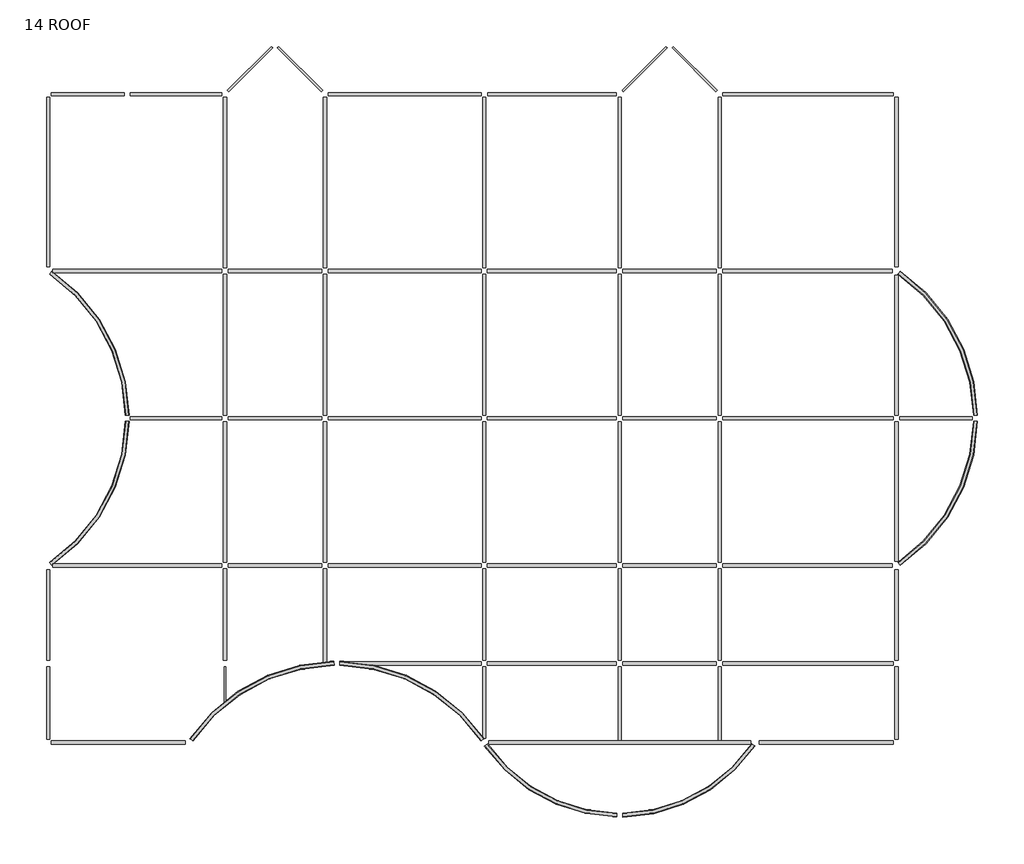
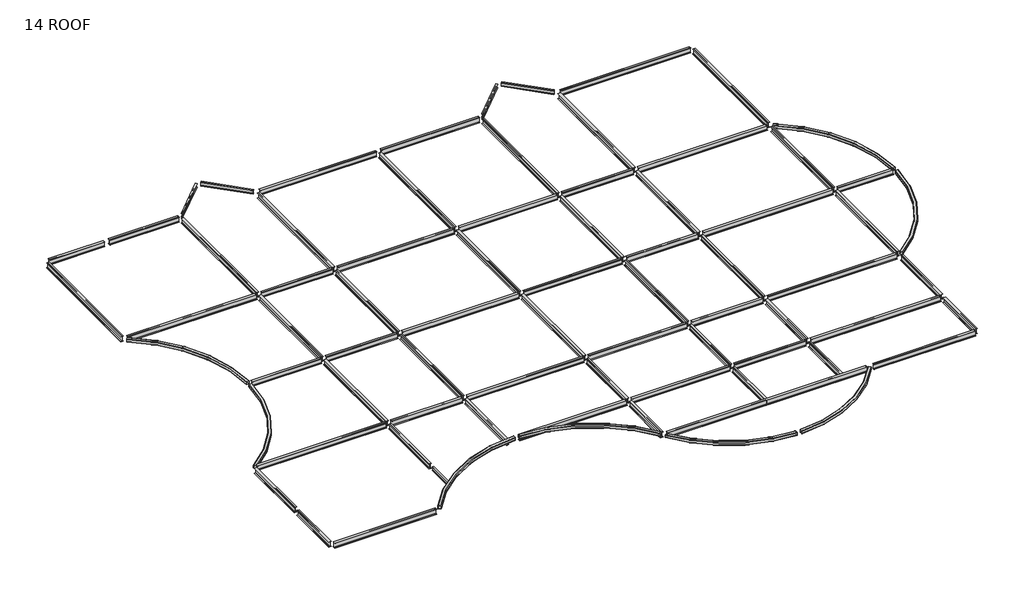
# One storey: 75 beams.
"""IFC4 building model written with IfcOpenShell, lengths in millimetres."""

from ifc_helpers import new_model, si_unit, origin, place, context, project, spatial, transform, mapped, element, save
from components import m_hss_square_hss203_2x203_2x9_5_28e91a4e, m_hss_square_hss203_2x203_2x9_5_f31329aa, m_hss_square_hss203_2x203_2x9_5_63507dff, m_hss_square_hss203_2x203_2x9_5_914ff4eb, m_hss_square_hss203_2x203_2x9_5_0e3d8e6e, m_hss_square_hss203_2x203_2x9_5_16dc1c03, m_hss_square_hss203_2x203_2x9_5_18346204, m_hss_square_hss203_2x203_2x9_5_d5f1e8c4, ub_universal_beams_ub254x102x28_7812688d, ub_universal_beams_ub254x102x28_4a38c177, ub_universal_beams_ub254x102x28_9e251ecf, ub_universal_beams_ub356x171x51_c708c058, ub_universal_beams_ub356x171x51_ef72dcdd, ub_universal_beams_ub356x171x51_10b3c54f, ub_universal_beams_ub356x171x51_4c9fd821, ub_universal_beams_ub356x171x51_d1a87c3c, ub_universal_beams_ub356x171x51_fa75724b, ub_universal_beams_ub356x171x51_68db896e, ub_universal_beams_ub356x171x51_c634c4a6, ub_universal_beams_ub356x171x51_995f1560, ub_universal_beams_ub356x171x51_7f80702c, ub_universal_beams_ub356x171x51_dfc36663, ub_universal_beams_ub356x171x51_405a853e, ub_universal_beams_ub356x171x51_e47b7055, ub_universal_beams_ub356x171x51_e97f8d2e, ub_universal_beams_ub356x171x51_11d6b780, ub_universal_beams_ub356x171x51_76b2d20b, ub_universal_beams_ub356x171x51_145ecd4b, ub_universal_beams_ub356x171x51_c7dff8d2, ub_universal_beams_ub356x171x51_8a345439, ub_universal_beams_ub356x171x51_6da510e9, ub_universal_beams_ub356x171x51_a38b99de, ub_universal_beams_ub356x171x51_d8f4cdde, ub_universal_beams_ub356x171x51_8094f821, ub_universal_beams_ub356x171x51_475301e6, ub_universal_beams_ub356x171x51_c03c70fb, ub_universal_beams_ub356x171x51_e661f2e4, ub_universal_beams_ub356x171x51_3ee91673, ub_universal_beams_ub356x171x51_a871b283, ub_universal_beams_ub356x171x51_d6a9458c, ub_universal_beams_ub356x171x51_579ee26b

model = new_model("IFC4")

# Units and contexts
model_context = context("Model", 3, world=origin())
ifc_project = project(units=[si_unit("LENGTHUNIT", "METRE", prefix="MILLI")], contexts=[model_context])

# Site, building, storey
site = spatial("IfcSite", under=ifc_project)
building = spatial("IfcBuilding", under=site)
storey = spatial("IfcBuildingStorey", under=building, Name="14 ROOF", Elevation=64922.6)

# Beams
placement = place(None, origin())
m_hss_square_hss203_2x203_2x9_5_shape = m_hss_square_hss203_2x203_2x9_5_28e91a4e(model_context)
element("IfcBeam", 1, ObjectType="M_HSS Square : HSS203.2X203.2X9.5", at=placement, inside=storey, context=model_context, shape_type="MappedRepresentation", body=[
    mapped(m_hss_square_hss203_2x203_2x9_5_shape, transform((44027.575, 24539.575, 64757.1), x_axis=(0.8332810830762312, -0.5528495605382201, 0.0), y_axis=(0.5528495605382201, 0.8332810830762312, 0.0), z_axis=(0.0, 0.0, 1.0))),
])
m_hss_square_hss203_2x203_2x9_5_2_shape = m_hss_square_hss203_2x203_2x9_5_f31329aa(model_context)
element("IfcBeam", 2, ObjectType="M_HSS Square : HSS203.2X203.2X9.5", at=placement, inside=storey, context=model_context, shape_type="MappedRepresentation", body=[
    mapped(m_hss_square_hss203_2x203_2x9_5_2_shape, transform((44027.575, 9299.575, 64757.1), x_axis=(0.8332810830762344, 0.5528495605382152, 0.0), y_axis=(-0.5528495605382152, 0.8332810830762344, 0.0), z_axis=(0.0, 0.0, 1.0))),
])
m_hss_square_hss203_2x203_2x9_5_3_shape = m_hss_square_hss203_2x203_2x9_5_63507dff(model_context)
element("IfcBeam", 3, ObjectType="M_HSS Square : HSS203.2X203.2X9.5", at=placement, inside=storey, context=model_context, shape_type="MappedRepresentation", body=[
    mapped(m_hss_square_hss203_2x203_2x9_5_3_shape, transform((36716.575, 155.575, 64821.1), x_axis=(-0.5530174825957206, -0.8331696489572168, 0.0), y_axis=(0.8331696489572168, -0.5530174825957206, 0.0), z_axis=(0.0, 0.0, 1.0))),
])
m_hss_square_hss203_2x203_2x9_5_4_shape = m_hss_square_hss203_2x203_2x9_5_914ff4eb(model_context)
element("IfcBeam", 4, ObjectType="M_HSS Square : HSS203.2X203.2X9.5", at=placement, inside=storey, context=model_context, shape_type="MappedRepresentation", body=[
    mapped(m_hss_square_hss203_2x203_2x9_5_4_shape, transform((22710.575, 155.575, 64821.1), x_axis=(-0.552849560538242, 0.8332810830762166, 0.0), y_axis=(-0.8332810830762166, -0.552849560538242, 0.0), z_axis=(0.0, 0.0, 1.0))),
])
m_hss_square_hss203_2x203_2x9_5_5_shape = m_hss_square_hss203_2x203_2x9_5_0e3d8e6e(model_context)
element("IfcBeam", 5, ObjectType="M_HSS Square : HSS203.2X203.2X9.5", at=placement, inside=storey, context=model_context, shape_type="MappedRepresentation", body=[
    mapped(m_hss_square_hss203_2x203_2x9_5_5_shape, transform((155.575, 9299.575, 64757.1), x_axis=(0.8332810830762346, 0.5528495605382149, 0.0), y_axis=(-0.5528495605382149, 0.8332810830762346, 0.0), z_axis=(0.0, 0.0, 1.0))),
])
m_hss_square_hss203_2x203_2x9_5_6_shape = m_hss_square_hss203_2x203_2x9_5_16dc1c03(model_context)
element("IfcBeam", 6, ObjectType="M_HSS Square : HSS203.2X203.2X9.5", at=placement, inside=storey, context=model_context, shape_type="MappedRepresentation", body=[
    mapped(m_hss_square_hss203_2x203_2x9_5_6_shape, transform((155.575, 24539.575, 64757.1), x_axis=(0.8332810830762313, -0.5528495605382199, 0.0), y_axis=(0.5528495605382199, 0.8332810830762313, 0.0), z_axis=(0.0, 0.0, 1.0))),
])
m_hss_square_hss203_2x203_2x9_5_7_shape = m_hss_square_hss203_2x203_2x9_5_18346204(model_context)
element("IfcBeam", 7, ObjectType="M_HSS Square : HSS203.2X203.2X9.5", at=placement, inside=storey, context=model_context, shape_type="MappedRepresentation", body=[
    mapped(m_hss_square_hss203_2x203_2x9_5_7_shape, transform((29734.7266693, -3601.398624, 64821.1), x_axis=(-0.9999968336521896, -0.0025164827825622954, 0.0), y_axis=(0.0025164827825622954, -0.9999968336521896, 0.0), z_axis=(0.0, 0.0, 1.0))),
])
m_hss_square_hss203_2x203_2x9_5_8_shape = m_hss_square_hss203_2x203_2x9_5_d5f1e8c4(model_context)
element("IfcBeam", 8, ObjectType="M_HSS Square : HSS203.2X203.2X9.5", at=placement, inside=storey, context=model_context, shape_type="MappedRepresentation", body=[
    mapped(m_hss_square_hss203_2x203_2x9_5_8_shape, transform((15096.4572854, 4244.5731081, 64821.1), x_axis=(-0.9999997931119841, 0.0006432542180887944, 0.0), y_axis=(-0.0006432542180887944, -0.9999997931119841, 0.0), z_axis=(0.0, 0.0, 1.0))),
])
ub_universal_beams_ub254x102x28_shape = ub_universal_beams_ub254x102x28_7812688d(model_context)
element("IfcBeam", 9, ObjectType="UB-Universal Beams : UB254x102x28", at=placement, inside=storey, context=model_context, shape_type="MappedRepresentation", body=[
    mapped(ub_universal_beams_ub254x102x28_shape, transform((10592.575, 34976.575, 64792.4), x_axis=(0.7071067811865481, 0.7071067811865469, 0.0), y_axis=(-0.7071067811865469, 0.7071067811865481, 0.0), z_axis=(0.0, 0.0, 1.0))),
])
element("IfcBeam", 10, ObjectType="UB-Universal Beams : UB254x102x28", at=placement, inside=storey, context=model_context, shape_type="MappedRepresentation", body=[
    mapped(ub_universal_beams_ub254x102x28_shape, transform((31004.575, 34976.575, 64792.4), x_axis=(0.7071067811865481, 0.7071067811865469, 0.0), y_axis=(-0.7071067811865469, 0.7071067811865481, 0.0), z_axis=(0.0, 0.0, 1.0))),
])
ub_universal_beams_ub254x102x28_2_shape = ub_universal_beams_ub254x102x28_4a38c177(model_context)
element("IfcBeam", 11, ObjectType="UB-Universal Beams : UB254x102x28", at=placement, inside=storey, context=model_context, shape_type="MappedRepresentation", body=[
    mapped(ub_universal_beams_ub254x102x28_2_shape, transform((13178.575, 34976.575, 64792.4), x_axis=(0.707106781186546, -0.707106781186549, 0.0), y_axis=(0.707106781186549, 0.707106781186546, 0.0), z_axis=(0.0, 0.0, 1.0))),
])
element("IfcBeam", 12, ObjectType="UB-Universal Beams : UB254x102x28", at=placement, inside=storey, context=model_context, shape_type="MappedRepresentation", body=[
    mapped(ub_universal_beams_ub254x102x28_2_shape, transform((33590.575, 34976.575, 64792.4), x_axis=(0.7071067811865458, -0.7071067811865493, 0.0), y_axis=(0.7071067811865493, 0.7071067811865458, 0.0), z_axis=(0.0, 0.0, 1.0))),
])
ub_universal_beams_ub254x102x28_3_shape = ub_universal_beams_ub254x102x28_9e251ecf(model_context)
element("IfcBeam", 13, ObjectType="UB-Universal Beams : UB254x102x28", at=placement, inside=storey, context=model_context, shape_type="MappedRepresentation", body=[
    mapped(ub_universal_beams_ub254x102x28_3_shape, transform((9299.575, 3210.915913, 64728.4), x_axis=(0.0, -1.0, 0.0), y_axis=(1.0, 0.0, 0.0), z_axis=(0.0, 0.0, 1.0))),
])
ub_universal_beams_ub356x171x51_shape = ub_universal_beams_ub356x171x51_c708c058(model_context)
element("IfcBeam", 14, ObjectType="UB-Universal Beams : UB356x171x51", at=placement, inside=storey, context=model_context, shape_type="MappedRepresentation", body=[
    mapped(ub_universal_beams_ub356x171x51_shape, transform((2200.075, 33683.575, 64745.1), x_axis=(1.0, 0.0, 0.0), y_axis=(0.0, 1.0, 0.0), z_axis=(0.0, 0.0, 1.0))),
])
ub_universal_beams_ub356x171x51_2_shape = ub_universal_beams_ub356x171x51_ef72dcdd(model_context)
element("IfcBeam", 15, ObjectType="UB-Universal Beams : UB356x171x51", at=placement, inside=storey, context=model_context, shape_type="MappedRepresentation", body=[
    mapped(ub_universal_beams_ub356x171x51_2_shape, transform((6772.075, 33683.575, 64745.1), x_axis=(1.0, 0.0, 0.0), y_axis=(0.0, 1.0, 0.0), z_axis=(0.0, 0.0, 1.0))),
])
element("IfcBeam", 16, ObjectType="UB-Universal Beams : UB356x171x51", at=placement, inside=storey, context=model_context, shape_type="MappedRepresentation", body=[
    mapped(ub_universal_beams_ub356x171x51_2_shape, transform((9299.575, 6772.075, 64681.1), x_axis=(0.0, -1.0, 0.0), y_axis=(1.0, 0.0, 0.0), z_axis=(0.0, 0.0, 1.0))),
])
element("IfcBeam", 17, ObjectType="UB-Universal Beams : UB356x171x51", at=placement, inside=storey, context=model_context, shape_type="MappedRepresentation", body=[
    mapped(ub_universal_beams_ub356x171x51_2_shape, transform((34883.575, 6772.075, 64681.1), x_axis=(0.0, -1.0, 0.0), y_axis=(1.0, 0.0, 0.0), z_axis=(0.0, 0.0, 1.0))),
])
element("IfcBeam", 18, ObjectType="UB-Universal Beams : UB356x171x51", at=placement, inside=storey, context=model_context, shape_type="MappedRepresentation", body=[
    mapped(ub_universal_beams_ub356x171x51_2_shape, transform((29711.575, 6772.075, 64681.1), x_axis=(0.0, 1.0, 0.0), y_axis=(-1.0, 0.0, 0.0), z_axis=(0.0, 0.0, 1.0))),
])
element("IfcBeam", 19, ObjectType="UB-Universal Beams : UB356x171x51", at=placement, inside=storey, context=model_context, shape_type="MappedRepresentation", body=[
    mapped(ub_universal_beams_ub356x171x51_2_shape, transform((22710.575, 6772.075, 64681.1), x_axis=(0.0, -1.0, 0.0), y_axis=(1.0, 0.0, 0.0), z_axis=(0.0, 0.0, 1.0))),
])
ub_universal_beams_ub356x171x51_3_shape = ub_universal_beams_ub356x171x51_10b3c54f(model_context)
element("IfcBeam", 20, ObjectType="UB-Universal Beams : UB356x171x51", at=placement, inside=storey, context=model_context, shape_type="MappedRepresentation", body=[
    mapped(ub_universal_beams_ub356x171x51_3_shape, transform((18591.075, 33683.575, 64745.1), x_axis=(1.0, 0.0, 0.0), y_axis=(0.0, 1.0, 0.0), z_axis=(0.0, 0.0, 1.0))),
])
ub_universal_beams_ub356x171x51_4_shape = ub_universal_beams_ub356x171x51_4c9fd821(model_context)
element("IfcBeam", 21, ObjectType="UB-Universal Beams : UB356x171x51", at=placement, inside=storey, context=model_context, shape_type="MappedRepresentation", body=[
    mapped(ub_universal_beams_ub356x171x51_4_shape, transform((26211.075, 33683.575, 64745.1), x_axis=(1.0, 0.0, 0.0), y_axis=(0.0, 1.0, 0.0), z_axis=(0.0, 0.0, 1.0))),
])
ub_universal_beams_ub356x171x51_5_shape = ub_universal_beams_ub356x171x51_d1a87c3c(model_context)
element("IfcBeam", 22, ObjectType="UB-Universal Beams : UB356x171x51", at=placement, inside=storey, context=model_context, shape_type="MappedRepresentation", body=[
    mapped(ub_universal_beams_ub356x171x51_5_shape, transform((39455.575, 33683.575, 64745.1), x_axis=(1.0, 0.0, 0.0), y_axis=(0.0, 1.0, 0.0), z_axis=(0.0, 0.0, 1.0))),
])
ub_universal_beams_ub356x171x51_6_shape = ub_universal_beams_ub356x171x51_fa75724b(model_context)
element("IfcBeam", 23, ObjectType="UB-Universal Beams : UB356x171x51", at=placement, inside=storey, context=model_context, shape_type="MappedRepresentation", body=[
    mapped(ub_universal_beams_ub356x171x51_6_shape, transform((44027.575, 29111.575, 64681.1), x_axis=(0.0, -1.0, 0.0), y_axis=(1.0, 0.0, 0.0), z_axis=(0.0, 0.0, 1.0))),
])
ub_universal_beams_ub356x171x51_7_shape = ub_universal_beams_ub356x171x51_68db896e(model_context)
element("IfcBeam", 24, ObjectType="UB-Universal Beams : UB356x171x51", at=placement, inside=storey, context=model_context, shape_type="MappedRepresentation", body=[
    mapped(ub_universal_beams_ub356x171x51_7_shape, transform((44027.575, 6772.075, 64681.1), x_axis=(0.0, -1.0, 0.0), y_axis=(1.0, 0.0, 0.0), z_axis=(0.0, 0.0, 1.0))),
])
ub_universal_beams_ub356x171x51_8_shape = ub_universal_beams_ub356x171x51_c634c4a6(model_context)
element("IfcBeam", 25, ObjectType="UB-Universal Beams : UB356x171x51", at=placement, inside=storey, context=model_context, shape_type="MappedRepresentation", body=[
    mapped(ub_universal_beams_ub356x171x51_8_shape, transform((44027.575, 2200.075, 64681.1), x_axis=(0.0, -1.0, 0.0), y_axis=(1.0, 0.0, 0.0), z_axis=(0.0, 0.0, 1.0))),
])
ub_universal_beams_ub356x171x51_9_shape = ub_universal_beams_ub356x171x51_995f1560(model_context)
element("IfcBeam", 26, ObjectType="UB-Universal Beams : UB356x171x51", at=placement, inside=storey, context=model_context, shape_type="MappedRepresentation", body=[
    mapped(ub_universal_beams_ub356x171x51_9_shape, transform((40372.075, 155.575, 64745.1), x_axis=(-1.0, 0.0, 0.0), y_axis=(0.0, -1.0, 0.0), z_axis=(0.0, 0.0, 1.0))),
])
ub_universal_beams_ub356x171x51_10_shape = ub_universal_beams_ub356x171x51_7f80702c(model_context)
element("IfcBeam", 27, ObjectType="UB-Universal Beams : UB356x171x51", at=placement, inside=storey, context=model_context, shape_type="MappedRepresentation", body=[
    mapped(ub_universal_beams_ub356x171x51_10_shape, transform((3813.075, 155.575, 64745.1), x_axis=(-1.0, 0.0, 0.0), y_axis=(0.0, -1.0, 0.0), z_axis=(0.0, 0.0, 1.0))),
])
ub_universal_beams_ub356x171x51_11_shape = ub_universal_beams_ub356x171x51_dfc36663(model_context)
element("IfcBeam", 28, ObjectType="UB-Universal Beams : UB356x171x51", at=placement, inside=storey, context=model_context, shape_type="MappedRepresentation", body=[
    mapped(ub_universal_beams_ub356x171x51_11_shape, transform((155.575, 2200.075, 64745.1), x_axis=(0.0, 1.0, 0.0), y_axis=(-1.0, 0.0, 0.0), z_axis=(0.0, 0.0, 1.0))),
])
element("IfcBeam", 29, ObjectType="UB-Universal Beams : UB356x171x51", at=placement, inside=storey, context=model_context, shape_type="MappedRepresentation", body=[
    mapped(ub_universal_beams_ub356x171x51_11_shape, transform((46072.075, 16919.575, 64745.1), x_axis=(1.0, 0.0, 0.0), y_axis=(0.0, 1.0, 0.0), z_axis=(0.0, 0.0, 1.0))),
])
ub_universal_beams_ub356x171x51_12_shape = ub_universal_beams_ub356x171x51_405a853e(model_context)
element("IfcBeam", 30, ObjectType="UB-Universal Beams : UB356x171x51", at=placement, inside=storey, context=model_context, shape_type="MappedRepresentation", body=[
    mapped(ub_universal_beams_ub356x171x51_12_shape, transform((155.575, 6772.075, 64745.1), x_axis=(0.0, 1.0, 0.0), y_axis=(-1.0, 0.0, 0.0), z_axis=(0.0, 0.0, 1.0))),
])
ub_universal_beams_ub356x171x51_13_shape = ub_universal_beams_ub356x171x51_e47b7055(model_context)
element("IfcBeam", 31, ObjectType="UB-Universal Beams : UB356x171x51", at=placement, inside=storey, context=model_context, shape_type="MappedRepresentation", body=[
    mapped(ub_universal_beams_ub356x171x51_13_shape, transform((155.575, 29111.575, 64681.1), x_axis=(0.0, 1.0, 0.0), y_axis=(-1.0, 0.0, 0.0), z_axis=(0.0, 0.0, 1.0))),
])
ub_universal_beams_ub356x171x51_14_shape = ub_universal_beams_ub356x171x51_e97f8d2e(model_context)
element("IfcBeam", 32, ObjectType="UB-Universal Beams : UB356x171x51", at=placement, inside=storey, context=model_context, shape_type="MappedRepresentation", body=[
    mapped(ub_universal_beams_ub356x171x51_14_shape, transform((4727.575, 24539.575, 64745.1), x_axis=(1.0, 0.0, 0.0), y_axis=(0.0, 1.0, 0.0), z_axis=(0.0, 0.0, 1.0))),
])
ub_universal_beams_ub356x171x51_15_shape = ub_universal_beams_ub356x171x51_11d6b780(model_context)
element("IfcBeam", 33, ObjectType="UB-Universal Beams : UB356x171x51", at=placement, inside=storey, context=model_context, shape_type="MappedRepresentation", body=[
    mapped(ub_universal_beams_ub356x171x51_15_shape, transform((11885.575, 24539.575, 64745.1), x_axis=(1.0, 0.0, 0.0), y_axis=(0.0, 1.0, 0.0), z_axis=(0.0, 0.0, 1.0))),
])
element("IfcBeam", 34, ObjectType="UB-Universal Beams : UB356x171x51", at=placement, inside=storey, context=model_context, shape_type="MappedRepresentation", body=[
    mapped(ub_universal_beams_ub356x171x51_15_shape, transform((32297.575, 24539.575, 64745.1), x_axis=(1.0, 0.0, 0.0), y_axis=(0.0, 1.0, 0.0), z_axis=(0.0, 0.0, 1.0))),
])
element("IfcBeam", 35, ObjectType="UB-Universal Beams : UB356x171x51", at=placement, inside=storey, context=model_context, shape_type="MappedRepresentation", body=[
    mapped(ub_universal_beams_ub356x171x51_15_shape, transform((32297.575, 9299.575, 64745.1), x_axis=(-1.0, 0.0, 0.0), y_axis=(0.0, -1.0, 0.0), z_axis=(0.0, 0.0, 1.0))),
])
element("IfcBeam", 36, ObjectType="UB-Universal Beams : UB356x171x51", at=placement, inside=storey, context=model_context, shape_type="MappedRepresentation", body=[
    mapped(ub_universal_beams_ub356x171x51_15_shape, transform((11885.575, 9299.575, 64745.1), x_axis=(-1.0, 0.0, 0.0), y_axis=(0.0, -1.0, 0.0), z_axis=(0.0, 0.0, 1.0))),
])
element("IfcBeam", 37, ObjectType="UB-Universal Beams : UB356x171x51", at=placement, inside=storey, context=model_context, shape_type="MappedRepresentation", body=[
    mapped(ub_universal_beams_ub356x171x51_15_shape, transform((11885.575, 16919.575, 64745.1), x_axis=(1.0, 0.0, 0.0), y_axis=(0.0, 1.0, 0.0), z_axis=(0.0, 0.0, 1.0))),
])
element("IfcBeam", 38, ObjectType="UB-Universal Beams : UB356x171x51", at=placement, inside=storey, context=model_context, shape_type="MappedRepresentation", body=[
    mapped(ub_universal_beams_ub356x171x51_15_shape, transform((32297.575, 16919.575, 64745.1), x_axis=(1.0, 0.0, 0.0), y_axis=(0.0, 1.0, 0.0), z_axis=(0.0, 0.0, 1.0))),
])
element("IfcBeam", 39, ObjectType="UB-Universal Beams : UB356x171x51", at=placement, inside=storey, context=model_context, shape_type="MappedRepresentation", body=[
    mapped(ub_universal_beams_ub356x171x51_15_shape, transform((32297.575, 4244.575, 64745.1), x_axis=(-1.0, 0.0, 0.0), y_axis=(0.0, -1.0, 0.0), z_axis=(0.0, 0.0, 1.0))),
])
ub_universal_beams_ub356x171x51_16_shape = ub_universal_beams_ub356x171x51_76b2d20b(model_context)
element("IfcBeam", 40, ObjectType="UB-Universal Beams : UB356x171x51", at=placement, inside=storey, context=model_context, shape_type="MappedRepresentation", body=[
    mapped(ub_universal_beams_ub356x171x51_16_shape, transform((18591.075, 24539.575, 64745.1), x_axis=(1.0, 0.0, 0.0), y_axis=(0.0, 1.0, 0.0), z_axis=(0.0, 0.0, 1.0))),
])
element("IfcBeam", 41, ObjectType="UB-Universal Beams : UB356x171x51", at=placement, inside=storey, context=model_context, shape_type="MappedRepresentation", body=[
    mapped(ub_universal_beams_ub356x171x51_16_shape, transform((18591.075, 9299.575, 64745.1), x_axis=(-1.0, 0.0, 0.0), y_axis=(0.0, -1.0, 0.0), z_axis=(0.0, 0.0, 1.0))),
])
element("IfcBeam", 42, ObjectType="UB-Universal Beams : UB356x171x51", at=placement, inside=storey, context=model_context, shape_type="MappedRepresentation", body=[
    mapped(ub_universal_beams_ub356x171x51_16_shape, transform((18591.075, 16919.575, 64745.1), x_axis=(1.0, 0.0, 0.0), y_axis=(0.0, 1.0, 0.0), z_axis=(0.0, 0.0, 1.0))),
])
ub_universal_beams_ub356x171x51_17_shape = ub_universal_beams_ub356x171x51_145ecd4b(model_context)
element("IfcBeam", 43, ObjectType="UB-Universal Beams : UB356x171x51", at=placement, inside=storey, context=model_context, shape_type="MappedRepresentation", body=[
    mapped(ub_universal_beams_ub356x171x51_17_shape, transform((26211.075, 24539.575, 64745.1), x_axis=(1.0, 0.0, 0.0), y_axis=(0.0, 1.0, 0.0), z_axis=(0.0, 0.0, 1.0))),
])
element("IfcBeam", 44, ObjectType="UB-Universal Beams : UB356x171x51", at=placement, inside=storey, context=model_context, shape_type="MappedRepresentation", body=[
    mapped(ub_universal_beams_ub356x171x51_17_shape, transform((26211.075, 9299.575, 64745.1), x_axis=(-1.0, 0.0, 0.0), y_axis=(0.0, -1.0, 0.0), z_axis=(0.0, 0.0, 1.0))),
])
element("IfcBeam", 45, ObjectType="UB-Universal Beams : UB356x171x51", at=placement, inside=storey, context=model_context, shape_type="MappedRepresentation", body=[
    mapped(ub_universal_beams_ub356x171x51_17_shape, transform((26211.075, 16919.575, 64745.1), x_axis=(1.0, 0.0, 0.0), y_axis=(0.0, 1.0, 0.0), z_axis=(0.0, 0.0, 1.0))),
])
element("IfcBeam", 46, ObjectType="UB-Universal Beams : UB356x171x51", at=placement, inside=storey, context=model_context, shape_type="MappedRepresentation", body=[
    mapped(ub_universal_beams_ub356x171x51_17_shape, transform((26211.075, 4244.575, 64745.1), x_axis=(-1.0, 0.0, 0.0), y_axis=(0.0, -1.0, 0.0), z_axis=(0.0, 0.0, 1.0))),
])
ub_universal_beams_ub356x171x51_18_shape = ub_universal_beams_ub356x171x51_c7dff8d2(model_context)
element("IfcBeam", 47, ObjectType="UB-Universal Beams : UB356x171x51", at=placement, inside=storey, context=model_context, shape_type="MappedRepresentation", body=[
    mapped(ub_universal_beams_ub356x171x51_18_shape, transform((39455.575, 24539.575, 64745.1), x_axis=(1.0, 0.0, 0.0), y_axis=(0.0, 1.0, 0.0), z_axis=(0.0, 0.0, 1.0))),
])
ub_universal_beams_ub356x171x51_19_shape = ub_universal_beams_ub356x171x51_8a345439(model_context)
element("IfcBeam", 48, ObjectType="UB-Universal Beams : UB356x171x51", at=placement, inside=storey, context=model_context, shape_type="MappedRepresentation", body=[
    mapped(ub_universal_beams_ub356x171x51_19_shape, transform((44027.575, 20729.575, 64681.1), x_axis=(0.0, -1.0, 0.0), y_axis=(1.0, 0.0, 0.0), z_axis=(0.0, 0.0, 1.0))),
])
ub_universal_beams_ub356x171x51_20_shape = ub_universal_beams_ub356x171x51_6da510e9(model_context)
element("IfcBeam", 49, ObjectType="UB-Universal Beams : UB356x171x51", at=placement, inside=storey, context=model_context, shape_type="MappedRepresentation", body=[
    mapped(ub_universal_beams_ub356x171x51_20_shape, transform((44027.575, 13109.575, 64681.1), x_axis=(0.0, -1.0, 0.0), y_axis=(1.0, 0.0, 0.0), z_axis=(0.0, 0.0, 1.0))),
])
element("IfcBeam", 50, ObjectType="UB-Universal Beams : UB356x171x51", at=placement, inside=storey, context=model_context, shape_type="MappedRepresentation", body=[
    mapped(ub_universal_beams_ub356x171x51_14_shape, transform((39455.575, 9299.575, 64745.1), x_axis=(-1.0, 0.0, 0.0), y_axis=(0.0, -1.0, 0.0), z_axis=(0.0, 0.0, 1.0))),
])
element("IfcBeam", 51, ObjectType="UB-Universal Beams : UB356x171x51", at=placement, inside=storey, context=model_context, shape_type="MappedRepresentation", body=[
    mapped(ub_universal_beams_ub356x171x51_18_shape, transform((4727.575, 9299.575, 64745.1), x_axis=(-1.0, 0.0, 0.0), y_axis=(0.0, -1.0, 0.0), z_axis=(0.0, 0.0, 1.0))),
])
ub_universal_beams_ub356x171x51_21_shape = ub_universal_beams_ub356x171x51_a38b99de(model_context)
element("IfcBeam", 52, ObjectType="UB-Universal Beams : UB356x171x51", at=placement, inside=storey, context=model_context, shape_type="MappedRepresentation", body=[
    mapped(ub_universal_beams_ub356x171x51_21_shape, transform((9299.575, 13109.575, 64681.1), x_axis=(0.0, 1.0, 0.0), y_axis=(-1.0, 0.0, 0.0), z_axis=(0.0, 0.0, 1.0))),
])
element("IfcBeam", 53, ObjectType="UB-Universal Beams : UB356x171x51", at=placement, inside=storey, context=model_context, shape_type="MappedRepresentation", body=[
    mapped(ub_universal_beams_ub356x171x51_21_shape, transform((9299.575, 20729.575, 64681.1), x_axis=(0.0, 1.0, 0.0), y_axis=(-1.0, 0.0, 0.0), z_axis=(0.0, 0.0, 1.0))),
])
element("IfcBeam", 54, ObjectType="UB-Universal Beams : UB356x171x51", at=placement, inside=storey, context=model_context, shape_type="MappedRepresentation", body=[
    mapped(ub_universal_beams_ub356x171x51_21_shape, transform((34883.575, 20729.575, 64681.1), x_axis=(0.0, -1.0, 0.0), y_axis=(1.0, 0.0, 0.0), z_axis=(0.0, 0.0, 1.0))),
])
element("IfcBeam", 55, ObjectType="UB-Universal Beams : UB356x171x51", at=placement, inside=storey, context=model_context, shape_type="MappedRepresentation", body=[
    mapped(ub_universal_beams_ub356x171x51_21_shape, transform((34883.575, 13109.575, 64681.1), x_axis=(0.0, -1.0, 0.0), y_axis=(1.0, 0.0, 0.0), z_axis=(0.0, 0.0, 1.0))),
])
element("IfcBeam", 56, ObjectType="UB-Universal Beams : UB356x171x51", at=placement, inside=storey, context=model_context, shape_type="MappedRepresentation", body=[
    mapped(ub_universal_beams_ub356x171x51_21_shape, transform((14471.575, 20729.575, 64681.1), x_axis=(0.0, -1.0, 0.0), y_axis=(1.0, 0.0, 0.0), z_axis=(0.0, 0.0, 1.0))),
])
element("IfcBeam", 57, ObjectType="UB-Universal Beams : UB356x171x51", at=placement, inside=storey, context=model_context, shape_type="MappedRepresentation", body=[
    mapped(ub_universal_beams_ub356x171x51_21_shape, transform((14471.575, 13109.575, 64681.1), x_axis=(0.0, -1.0, 0.0), y_axis=(1.0, 0.0, 0.0), z_axis=(0.0, 0.0, 1.0))),
])
element("IfcBeam", 58, ObjectType="UB-Universal Beams : UB356x171x51", at=placement, inside=storey, context=model_context, shape_type="MappedRepresentation", body=[
    mapped(ub_universal_beams_ub356x171x51_21_shape, transform((22710.575, 20729.575, 64681.1), x_axis=(0.0, -1.0, 0.0), y_axis=(1.0, 0.0, 0.0), z_axis=(0.0, 0.0, 1.0))),
])
element("IfcBeam", 59, ObjectType="UB-Universal Beams : UB356x171x51", at=placement, inside=storey, context=model_context, shape_type="MappedRepresentation", body=[
    mapped(ub_universal_beams_ub356x171x51_21_shape, transform((22710.575, 13109.575, 64681.1), x_axis=(0.0, -1.0, 0.0), y_axis=(1.0, 0.0, 0.0), z_axis=(0.0, 0.0, 1.0))),
])
element("IfcBeam", 60, ObjectType="UB-Universal Beams : UB356x171x51", at=placement, inside=storey, context=model_context, shape_type="MappedRepresentation", body=[
    mapped(ub_universal_beams_ub356x171x51_21_shape, transform((29711.575, 13109.575, 64681.1), x_axis=(0.0, 1.0, 0.0), y_axis=(-1.0, 0.0, 0.0), z_axis=(0.0, 0.0, 1.0))),
])
element("IfcBeam", 61, ObjectType="UB-Universal Beams : UB356x171x51", at=placement, inside=storey, context=model_context, shape_type="MappedRepresentation", body=[
    mapped(ub_universal_beams_ub356x171x51_21_shape, transform((29711.575, 20729.575, 64681.1), x_axis=(0.0, 1.0, 0.0), y_axis=(-1.0, 0.0, 0.0), z_axis=(0.0, 0.0, 1.0))),
])
ub_universal_beams_ub356x171x51_22_shape = ub_universal_beams_ub356x171x51_d8f4cdde(model_context)
element("IfcBeam", 62, ObjectType="UB-Universal Beams : UB356x171x51", at=placement, inside=storey, context=model_context, shape_type="MappedRepresentation", body=[
    mapped(ub_universal_beams_ub356x171x51_22_shape, transform((9299.575, 29111.575, 64681.1), x_axis=(0.0, 1.0, 0.0), y_axis=(-1.0, 0.0, 0.0), z_axis=(0.0, 0.0, 1.0))),
])
element("IfcBeam", 63, ObjectType="UB-Universal Beams : UB356x171x51", at=placement, inside=storey, context=model_context, shape_type="MappedRepresentation", body=[
    mapped(ub_universal_beams_ub356x171x51_22_shape, transform((29711.575, 29111.575, 64681.1), x_axis=(0.0, 1.0, 0.0), y_axis=(-1.0, 0.0, 0.0), z_axis=(0.0, 0.0, 1.0))),
])
ub_universal_beams_ub356x171x51_23_shape = ub_universal_beams_ub356x171x51_8094f821(model_context)
element("IfcBeam", 64, ObjectType="UB-Universal Beams : UB356x171x51", at=placement, inside=storey, context=model_context, shape_type="MappedRepresentation", body=[
    mapped(ub_universal_beams_ub356x171x51_23_shape, transform((6772.075, 16919.575, 64745.1), x_axis=(1.0, 0.0, 0.0), y_axis=(0.0, 1.0, 0.0), z_axis=(0.0, 0.0, 1.0))),
])
ub_universal_beams_ub356x171x51_24_shape = ub_universal_beams_ub356x171x51_475301e6(model_context)
element("IfcBeam", 65, ObjectType="UB-Universal Beams : UB356x171x51", at=placement, inside=storey, context=model_context, shape_type="MappedRepresentation", body=[
    mapped(ub_universal_beams_ub356x171x51_24_shape, transform((39455.575, 16919.575, 64745.1), x_axis=(1.0, 0.0, 0.0), y_axis=(0.0, 1.0, 0.0), z_axis=(0.0, 0.0, 1.0))),
])
element("IfcBeam", 66, ObjectType="UB-Universal Beams : UB356x171x51", at=placement, inside=storey, context=model_context, shape_type="MappedRepresentation", body=[
    mapped(ub_universal_beams_ub356x171x51_24_shape, transform((39455.575, 4244.575, 64745.1), x_axis=(-1.0, 0.0, 0.0), y_axis=(0.0, -1.0, 0.0), z_axis=(0.0, 0.0, 1.0))),
])
ub_universal_beams_ub356x171x51_25_shape = ub_universal_beams_ub356x171x51_c03c70fb(model_context)
element("IfcBeam", 67, ObjectType="UB-Universal Beams : UB356x171x51", at=placement, inside=storey, context=model_context, shape_type="MappedRepresentation", body=[
    mapped(ub_universal_beams_ub356x171x51_25_shape, transform((34883.575, 29111.575, 64681.1), x_axis=(0.0, -1.0, 0.0), y_axis=(1.0, 0.0, 0.0), z_axis=(0.0, 0.0, 1.0))),
])
element("IfcBeam", 68, ObjectType="UB-Universal Beams : UB356x171x51", at=placement, inside=storey, context=model_context, shape_type="MappedRepresentation", body=[
    mapped(ub_universal_beams_ub356x171x51_25_shape, transform((14471.575, 29111.575, 64681.1), x_axis=(0.0, -1.0, 0.0), y_axis=(1.0, 0.0, 0.0), z_axis=(0.0, 0.0, 1.0))),
])
element("IfcBeam", 69, ObjectType="UB-Universal Beams : UB356x171x51", at=placement, inside=storey, context=model_context, shape_type="MappedRepresentation", body=[
    mapped(ub_universal_beams_ub356x171x51_25_shape, transform((22710.575, 29111.575, 64681.1), x_axis=(0.0, -1.0, 0.0), y_axis=(1.0, 0.0, 0.0), z_axis=(0.0, 0.0, 1.0))),
])
ub_universal_beams_ub356x171x51_26_shape = ub_universal_beams_ub356x171x51_e661f2e4(model_context)
element("IfcBeam", 70, ObjectType="UB-Universal Beams : UB356x171x51", at=placement, inside=storey, context=model_context, shape_type="MappedRepresentation", body=[
    mapped(ub_universal_beams_ub356x171x51_26_shape, transform((29713.575, 155.575, 64745.1), x_axis=(-1.0, 0.0, 0.0), y_axis=(0.0, -1.0, 0.0), z_axis=(0.0, 0.0, 1.0))),
])
ub_universal_beams_ub356x171x51_27_shape = ub_universal_beams_ub356x171x51_3ee91673(model_context)
element("IfcBeam", 71, ObjectType="UB-Universal Beams : UB356x171x51", at=placement, inside=storey, context=model_context, shape_type="MappedRepresentation", body=[
    mapped(ub_universal_beams_ub356x171x51_27_shape, transform((18900.575, 4244.575, 64745.1), x_axis=(-1.0, 0.0, 0.0), y_axis=(0.0, -1.0, 0.0), z_axis=(0.0, 0.0, 1.0))),
])
ub_universal_beams_ub356x171x51_28_shape = ub_universal_beams_ub356x171x51_a871b283(model_context)
element("IfcBeam", 72, ObjectType="UB-Universal Beams : UB356x171x51", at=placement, inside=storey, context=model_context, shape_type="MappedRepresentation", body=[
    mapped(ub_universal_beams_ub356x171x51_28_shape, transform((22710.575, 2200.075, 64681.1), x_axis=(0.0, -1.0, 0.0), y_axis=(1.0, 0.0, 0.0), z_axis=(0.0, 0.0, 1.0))),
])
ub_universal_beams_ub356x171x51_29_shape = ub_universal_beams_ub356x171x51_d6a9458c(model_context)
element("IfcBeam", 73, ObjectType="UB-Universal Beams : UB356x171x51", at=placement, inside=storey, context=model_context, shape_type="MappedRepresentation", body=[
    mapped(ub_universal_beams_ub356x171x51_29_shape, transform((14471.575, 6761.5878809, 64681.1), x_axis=(0.0, -1.0, 0.0), y_axis=(1.0, 0.0, 0.0), z_axis=(0.0, 0.0, 1.0))),
])
ub_universal_beams_ub356x171x51_30_shape = ub_universal_beams_ub356x171x51_579ee26b(model_context)
element("IfcBeam", 74, ObjectType="UB-Universal Beams : UB356x171x51", at=placement, inside=storey, context=model_context, shape_type="MappedRepresentation", body=[
    mapped(ub_universal_beams_ub356x171x51_30_shape, transform((29711.575, 2200.075, 64681.1), x_axis=(0.0, -1.0, 0.0), y_axis=(1.0, 0.0, 0.0), z_axis=(0.0, 0.0, 1.0))),
])
element("IfcBeam", 75, ObjectType="UB-Universal Beams : UB356x171x51", at=placement, inside=storey, context=model_context, shape_type="MappedRepresentation", body=[
    mapped(ub_universal_beams_ub356x171x51_30_shape, transform((34883.575, 2200.075, 64681.1), x_axis=(0.0, -1.0, 0.0), y_axis=(1.0, 0.0, 0.0), z_axis=(0.0, 0.0, 1.0))),
])

save(model, "model.ifc")
